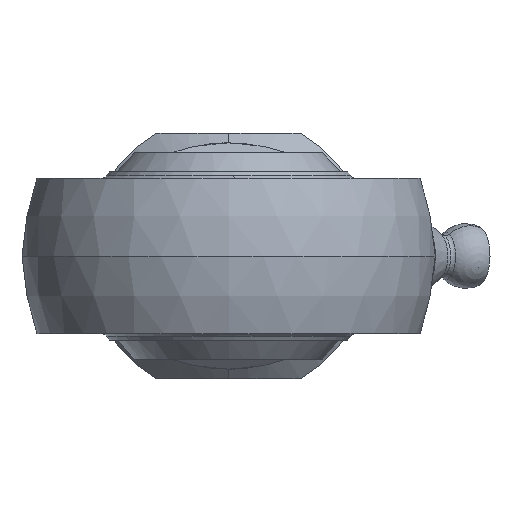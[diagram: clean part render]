
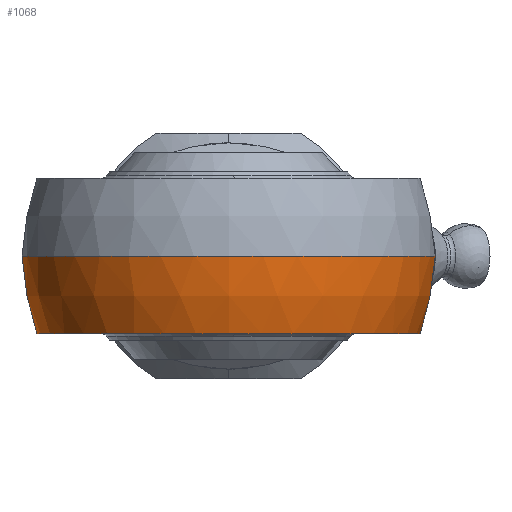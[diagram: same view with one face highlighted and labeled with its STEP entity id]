
A CAD part, left-side view. The second image highlights one B-rep face of the part: STEP entity #1068.
In plain terms, the highlighted spherical face has radius 16 mm.
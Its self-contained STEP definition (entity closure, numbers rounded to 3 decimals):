
#1068 = ADVANCED_FACE ( 'NONE', ( #3256 ), #3232, .T. ) ;
#1069 = EDGE_LOOP ( 'NONE', ( #1114, #1118, #1206, #1120, #1123 ) ) ;
#1114 = ORIENTED_EDGE ( 'NONE', *, *, #1115, .T. ) ;
#1115 = EDGE_CURVE ( 'NONE', #1116, #1117, #3190, .T. ) ;
#1116 = VERTEX_POINT ( 'NONE', #3189 ) ;
#1117 = VERTEX_POINT ( 'NONE', #3184 ) ;
#1118 = ORIENTED_EDGE ( 'NONE', *, *, #1205, .T. ) ;
#1119 = VERTEX_POINT ( 'NONE', #3183 ) ;
#1120 = ORIENTED_EDGE ( 'NONE', *, *, #1121, .T. ) ;
#1121 = EDGE_CURVE ( 'NONE', #1208, #1122, #3182, .T. ) ;
#1122 = VERTEX_POINT ( 'NONE', #3177 ) ;
#1123 = ORIENTED_EDGE ( 'NONE', *, *, #1124, .T. ) ;
#1124 = EDGE_CURVE ( 'NONE', #1122, #1116, #3175, .T. ) ;
#1205 = EDGE_CURVE ( 'NONE', #1117, #1119, #3433, .T. ) ;
#1206 = ORIENTED_EDGE ( 'NONE', *, *, #1207, .F. ) ;
#1207 = EDGE_CURVE ( 'NONE', #1208, #1119, #3426, .T. ) ;
#1208 = VERTEX_POINT ( 'NONE', #3421 ) ;
#3171 = DIRECTION ( 'NONE',  ( 1., 0., 0. ) ) ;
#3172 = DIRECTION ( 'NONE',  ( 0., 0., 1. ) ) ;
#3173 = CARTESIAN_POINT ( 'NONE',  ( 0., 0., -6. ) ) ;
#3174 = AXIS2_PLACEMENT_3D ( 'NONE', #3173, #3172, #3171 ) ;
#3175 = CIRCLE ( 'NONE', #3174, 14.832 ) ;
#3177 = CARTESIAN_POINT ( 'NONE',  ( 6.921, 13.118, -6. ) ) ;
#3178 = DIRECTION ( 'NONE',  ( 0., 0., 1. ) ) ;
#3179 = DIRECTION ( 'NONE',  ( -1., 0., 0. ) ) ;
#3180 = CARTESIAN_POINT ( 'NONE',  ( 6.921, 0., 0. ) ) ;
#3181 = AXIS2_PLACEMENT_3D ( 'NONE', #3180, #3179, #3178 ) ;
#3182 = CIRCLE ( 'NONE', #3181, 14.425 ) ;
#3183 = CARTESIAN_POINT ( 'NONE',  ( -16., 0., 0. ) ) ;
#3184 = CARTESIAN_POINT ( 'NONE',  ( 6.921, -14.425, 0. ) ) ;
#3185 = DIRECTION ( 'NONE',  ( 0., 0., 1. ) ) ;
#3186 = DIRECTION ( 'NONE',  ( -1., 0., 0. ) ) ;
#3187 = CARTESIAN_POINT ( 'NONE',  ( 6.921, 0., 0. ) ) ;
#3188 = AXIS2_PLACEMENT_3D ( 'NONE', #3187, #3186, #3185 ) ;
#3189 = CARTESIAN_POINT ( 'NONE',  ( 6.921, -13.118, -6. ) ) ;
#3190 = CIRCLE ( 'NONE', #3188, 14.425 ) ;
#3228 = DIRECTION ( 'NONE',  ( 0., 1., 0. ) ) ;
#3229 = DIRECTION ( 'NONE',  ( 0., 0., -1. ) ) ;
#3230 = AXIS2_PLACEMENT_3D ( 'NONE', #3231, #3229, #3228 ) ;
#3231 = CARTESIAN_POINT ( 'NONE',  ( 0., 0., 0. ) ) ;
#3232 = SPHERICAL_SURFACE ( 'NONE', #3230, 16. ) ;
#3256 = FACE_OUTER_BOUND ( 'NONE', #1069, .T. ) ;
#3421 = CARTESIAN_POINT ( 'NONE',  ( 6.921, 14.425, 0. ) ) ;
#3422 = DIRECTION ( 'NONE',  ( 1., 0., 0. ) ) ;
#3423 = DIRECTION ( 'NONE',  ( 0., 0., 1. ) ) ;
#3424 = CARTESIAN_POINT ( 'NONE',  ( 0., 0., 0. ) ) ;
#3425 = AXIS2_PLACEMENT_3D ( 'NONE', #3424, #3423, #3422 ) ;
#3426 = CIRCLE ( 'NONE', #3425, 16. ) ;
#3427 = DIRECTION ( 'NONE',  ( 0., 1., 0. ) ) ;
#3428 = DIRECTION ( 'NONE',  ( 0., 0., -1. ) ) ;
#3429 = CARTESIAN_POINT ( 'NONE',  ( 0., 0., 0. ) ) ;
#3430 = AXIS2_PLACEMENT_3D ( 'NONE', #3429, #3428, #3427 ) ;
#3433 = CIRCLE ( 'NONE', #3430, 16. ) ;
